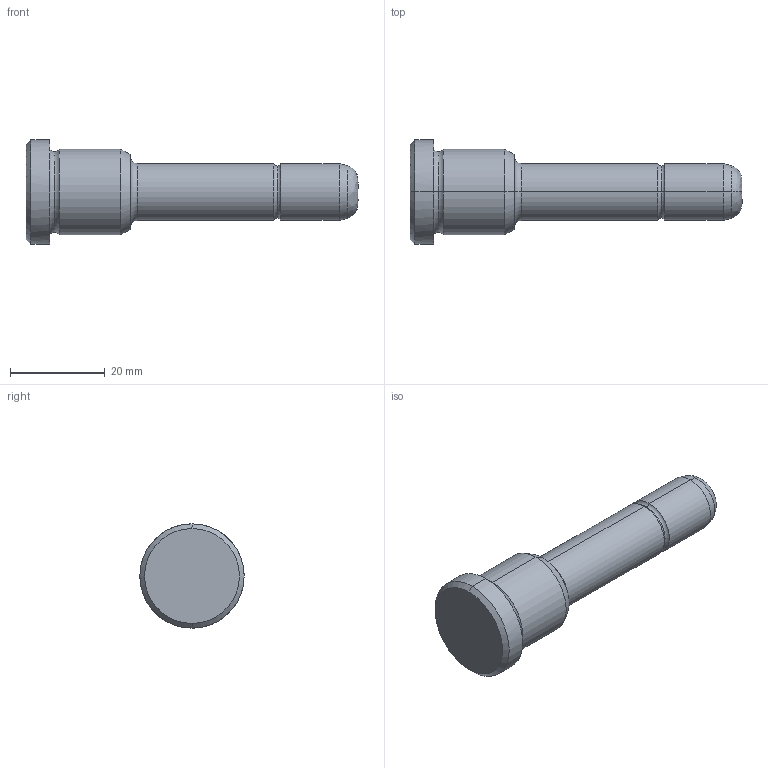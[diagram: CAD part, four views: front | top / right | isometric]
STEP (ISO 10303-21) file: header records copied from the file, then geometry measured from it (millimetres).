
FILE_DESCRIPTION(('CATIA V5 STEP Exchange'),'2;1');
FILE_NAME('C:\Users\Utente\Desktop\IO LAVORO\3D X SITO CF\X SITO\PLASTICA\351\351-12X22X70.stp','2021-08-17T11:48:04+00:00',('none'),('none'),'CATIA Version 5 Release 20 GA (IN-10)','CATIA V5 STEP AP203','none');
FILE_SCHEMA(('CONFIG_CONTROL_DESIGN'));
Length unit declared in the file: millimetre
Products named in the file (1): 351-12X22X70
Bounding box: 70 x 22 x 22 mm (x, y, z)
Volume: 11414.1 mm3; surface area: 3716.6 mm2
Topology: 1 solids, 1 shells, 30 faces, 86 edges, 60 vertices
Faces by surface type: torus 10, cylinder 8, cone 6, plane 4, bspline 2
Entity records: 1128 total; most frequent: CARTESIAN_POINT 343, ORIENTED_EDGE 172, DIRECTION 124, EDGE_CURVE 86, AXIS2_PLACEMENT_3D 83, VERTEX_POINT 60, CIRCLE 54, EDGE_LOOP 32
